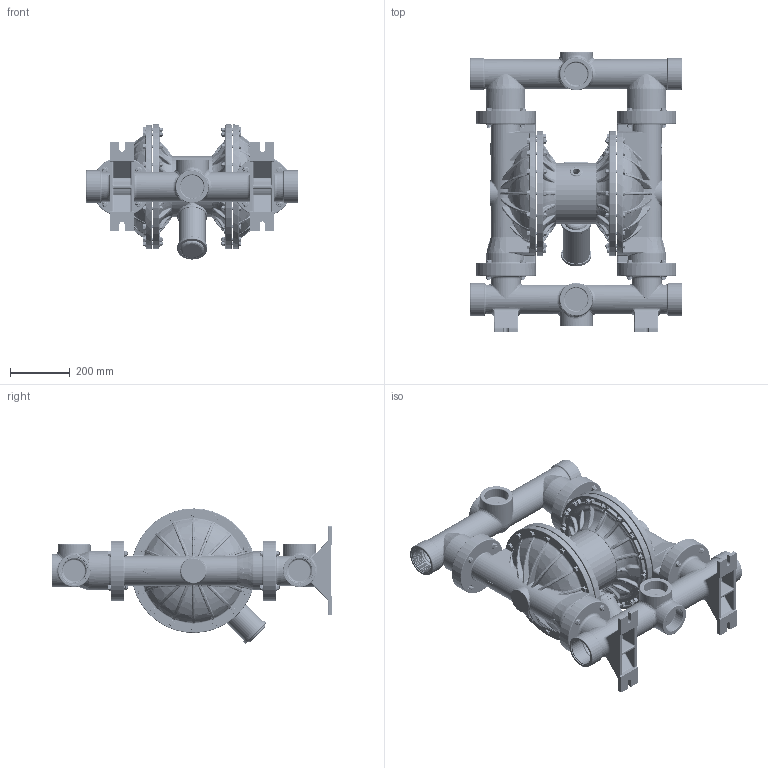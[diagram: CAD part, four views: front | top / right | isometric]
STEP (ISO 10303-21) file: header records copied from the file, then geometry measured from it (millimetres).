
FILE_DESCRIPTION (( 'STEP AP203' ), '1' );
FILE_NAME ('P1000 ALU.STEP', '2024-03-07T08:03:47', ( '' ), ( '' ), 'SwSTEP 2.0', 'SolidWorks 2023', '' );
FILE_SCHEMA (( 'CONFIG_CONTROL_DESIGN' ));
Length unit declared in the file: millimetre
Products named in the file (1): P1000 ALU
Bounding box: 711 x 940 x 452.54 mm (x, y, z)
Surface area: 4191900.7 mm2 (no closed solid volume)
Topology: 0 solids, 148 shells, 18931 faces, 40860 edges, 22096 vertices
Faces by surface type: torus 5651, cone 4834, cylinder 4119, bspline 2497, plane 1554, sphere 276
Entity records: 630042 total; most frequent: CARTESIAN_POINT 230366, DIRECTION 91140, ORIENTED_EDGE 80876, AXIS2_PLACEMENT_3D 40611, EDGE_CURVE 40440, CIRCLE 24176, VERTEX_POINT 22010, EDGE_LOOP 19530
